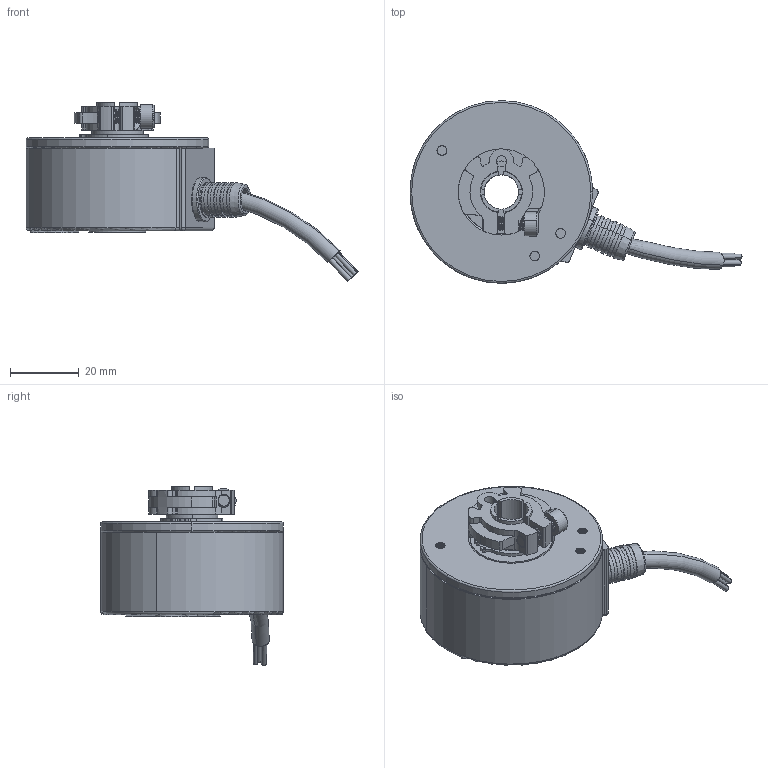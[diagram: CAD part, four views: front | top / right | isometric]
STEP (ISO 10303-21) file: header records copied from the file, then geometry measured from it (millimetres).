
FILE_DESCRIPTION (( 'STEP AP214' ), '1' );
FILE_NAME ('FNC50H10.STEP', '2020-05-06T13:23:08', ( '' ), ( '' ), 'SwSTEP 2.0', 'SolidWorks 2018', '' );
FILE_SCHEMA (( 'AUTOMOTIVE_DESIGN' ));
Length unit declared in the file: millimetre
Products named in the file (1): FNC50H10
Bounding box: 96.37 x 53 x 51.91 mm (x, y, z)
Volume: 60703.6 mm3; surface area: 16868.1 mm2
Topology: 1 solids, 14 shells, 700 faces, 1874 edges, 1214 vertices
Faces by surface type: cylinder 348, plane 188, cone 126, torus 25, bspline 11, sphere 2
Entity records: 28422 total; most frequent: CARTESIAN_POINT 10941, ORIENTED_EDGE 3740, DIRECTION 3706, EDGE_CURVE 1870, AXIS2_PLACEMENT_3D 1448, VERTEX_POINT 1214, LINE 810, VECTOR 810
